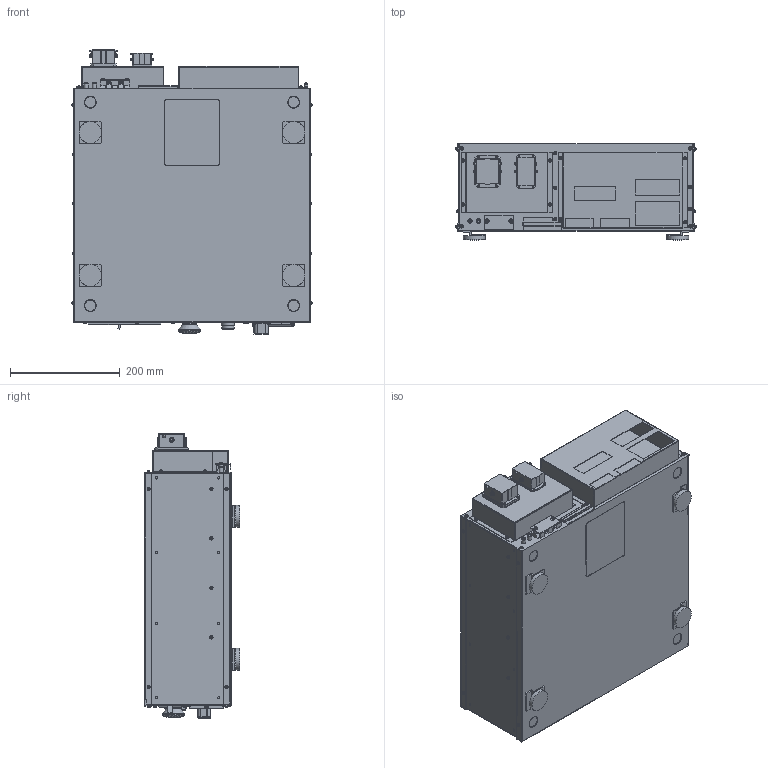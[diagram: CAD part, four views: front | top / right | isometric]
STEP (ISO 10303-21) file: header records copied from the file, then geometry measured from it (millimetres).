
FILE_DESCRIPTION (( 'STEP AP203' ), '1' );
FILE_NAME ('CR750_CE_.STEP', '2012-07-06T07:54:18', ( 'wu51936' ), ( '' ), 'SwSTEP 2.0', 'SolidWorks 2012', '' );
FILE_SCHEMA (( 'CONFIG_CONTROL_DESIGN' ));
Products named in the file (1): CR750_CE_
Bounding box: 436.6 x 174 x 516.7 mm (x, y, z)
Volume: 28969632.1 mm3; surface area: 993356.1 mm2
Topology: 6 solids, 13 shells, 3943 faces, 10358 edges, 6689 vertices
Faces by surface type: plane 2755, cylinder 849, bspline 174, torus 85, cone 58, sphere 22
Full cylindrical faces by diameter (mm): 2.7 x4, 3 x22, 3.2 x4, 3.5 x8, 4 x20, 4.5 x46, 5 x50, 5.5 x6, 6 x54, 6.5 x3, 7 x12, 7.6 x3, 8 x8, 16 x1, 16.2 x1, 16.4 x1, 20 x1, 22.9 x1, 23 x1, 23.8 x1, 25.1 x1, 40 x4, 43 x1
Entity records: 127298 total; most frequent: CARTESIAN_POINT 33823, ORIENTED_EDGE 19838, DIRECTION 17834, EDGE_CURVE 9919, VECTOR 6746, LINE 6746, VERTEX_POINT 6608, AXIS2_PLACEMENT_3D 5544
